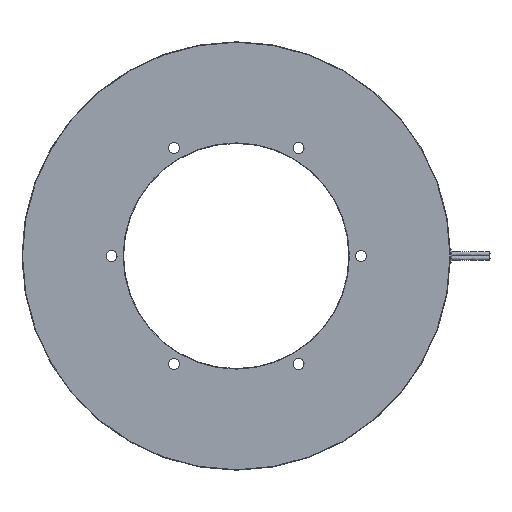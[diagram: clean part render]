
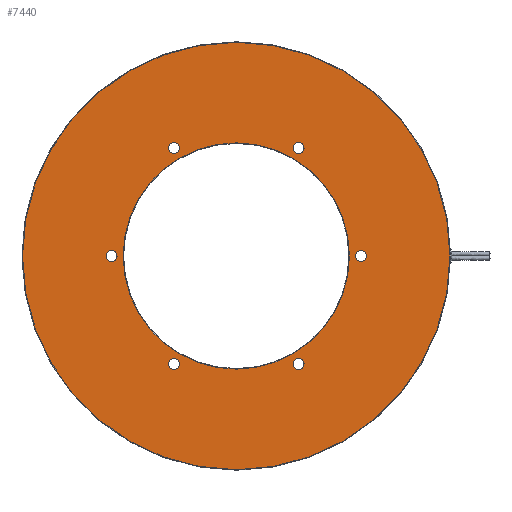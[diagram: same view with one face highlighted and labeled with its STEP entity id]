
A CAD part, left-side view. The second image highlights one B-rep face of the part: STEP entity #7440.
In plain terms, the highlighted planar face has unit normal (-1, 0, 0).
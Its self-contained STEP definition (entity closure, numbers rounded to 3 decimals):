
#77=FACE_BOUND('',#846,.T.);
#78=FACE_BOUND('',#847,.T.);
#79=FACE_BOUND('',#848,.T.);
#80=FACE_BOUND('',#849,.T.);
#81=FACE_BOUND('',#850,.T.);
#82=FACE_BOUND('',#851,.T.);
#83=FACE_BOUND('',#852,.T.);
#211=PLANE('',#8265);
#437=FACE_OUTER_BOUND('',#845,.T.);
#845=EDGE_LOOP('',(#5508,#5509,#5510));
#846=EDGE_LOOP('',(#5511,#5512));
#847=EDGE_LOOP('',(#5513,#5514));
#848=EDGE_LOOP('',(#5515,#5516));
#849=EDGE_LOOP('',(#5517,#5518));
#850=EDGE_LOOP('',(#5519,#5520));
#851=EDGE_LOOP('',(#5521,#5522));
#852=EDGE_LOOP('',(#5523));
#1140=CIRCLE('',#7659,204.);
#1141=CIRCLE('',#7660,204.);
#1569=CIRCLE('',#8266,204.);
#1570=CIRCLE('',#8267,5.25);
#1571=CIRCLE('',#8268,5.25);
#1572=CIRCLE('',#8269,5.25);
#1573=CIRCLE('',#8270,5.25);
#1574=CIRCLE('',#8271,5.25);
#1575=CIRCLE('',#8272,5.25);
#1576=CIRCLE('',#8273,5.25);
#1577=CIRCLE('',#8274,5.25);
#1578=CIRCLE('',#8275,5.25);
#1579=CIRCLE('',#8276,5.25);
#1580=CIRCLE('',#8277,5.25);
#1581=CIRCLE('',#8278,5.25);
#1582=CIRCLE('',#8279,108.);
#2551=VERTEX_POINT('',#11573);
#2552=VERTEX_POINT('',#11575);
#2553=VERTEX_POINT('',#11577);
#2915=VERTEX_POINT('',#12836);
#2916=VERTEX_POINT('',#12837);
#2917=VERTEX_POINT('',#12840);
#2918=VERTEX_POINT('',#12841);
#2919=VERTEX_POINT('',#12844);
#2920=VERTEX_POINT('',#12845);
#2921=VERTEX_POINT('',#12848);
#2922=VERTEX_POINT('',#12849);
#2923=VERTEX_POINT('',#12852);
#2924=VERTEX_POINT('',#12853);
#2925=VERTEX_POINT('',#12856);
#2926=VERTEX_POINT('',#12857);
#2927=VERTEX_POINT('',#12860);
#3312=EDGE_CURVE('',#2552,#2551,#1140,.T.);
#3313=EDGE_CURVE('',#2553,#2552,#1141,.T.);
#3887=EDGE_CURVE('',#2551,#2553,#1569,.T.);
#3888=EDGE_CURVE('',#2915,#2916,#1570,.T.);
#3889=EDGE_CURVE('',#2916,#2915,#1571,.T.);
#3890=EDGE_CURVE('',#2917,#2918,#1572,.T.);
#3891=EDGE_CURVE('',#2918,#2917,#1573,.T.);
#3892=EDGE_CURVE('',#2919,#2920,#1574,.T.);
#3893=EDGE_CURVE('',#2920,#2919,#1575,.T.);
#3894=EDGE_CURVE('',#2921,#2922,#1576,.T.);
#3895=EDGE_CURVE('',#2922,#2921,#1577,.T.);
#3896=EDGE_CURVE('',#2923,#2924,#1578,.T.);
#3897=EDGE_CURVE('',#2924,#2923,#1579,.T.);
#3898=EDGE_CURVE('',#2925,#2926,#1580,.T.);
#3899=EDGE_CURVE('',#2926,#2925,#1581,.T.);
#3900=EDGE_CURVE('',#2927,#2927,#1582,.T.);
#5508=ORIENTED_EDGE('',*,*,#3312,.T.);
#5509=ORIENTED_EDGE('',*,*,#3887,.T.);
#5510=ORIENTED_EDGE('',*,*,#3313,.T.);
#5511=ORIENTED_EDGE('',*,*,#3888,.T.);
#5512=ORIENTED_EDGE('',*,*,#3889,.T.);
#5513=ORIENTED_EDGE('',*,*,#3890,.T.);
#5514=ORIENTED_EDGE('',*,*,#3891,.T.);
#5515=ORIENTED_EDGE('',*,*,#3892,.T.);
#5516=ORIENTED_EDGE('',*,*,#3893,.T.);
#5517=ORIENTED_EDGE('',*,*,#3894,.T.);
#5518=ORIENTED_EDGE('',*,*,#3895,.T.);
#5519=ORIENTED_EDGE('',*,*,#3896,.T.);
#5520=ORIENTED_EDGE('',*,*,#3897,.T.);
#5521=ORIENTED_EDGE('',*,*,#3898,.T.);
#5522=ORIENTED_EDGE('',*,*,#3899,.T.);
#5523=ORIENTED_EDGE('',*,*,#3900,.F.);
#7440=ADVANCED_FACE('',(#437,#77,#78,#79,#80,#81,#82,#83),#211,.T.);
#7659=AXIS2_PLACEMENT_3D('',#11576,#8874,#8875);
#7660=AXIS2_PLACEMENT_3D('',#11578,#8876,#8877);
#8265=AXIS2_PLACEMENT_3D('',#12834,#10226,#10227);
#8266=AXIS2_PLACEMENT_3D('',#12835,#10228,#10229);
#8267=AXIS2_PLACEMENT_3D('',#12838,#10230,#10231);
#8268=AXIS2_PLACEMENT_3D('',#12839,#10232,#10233);
#8269=AXIS2_PLACEMENT_3D('',#12842,#10234,#10235);
#8270=AXIS2_PLACEMENT_3D('',#12843,#10236,#10237);
#8271=AXIS2_PLACEMENT_3D('',#12846,#10238,#10239);
#8272=AXIS2_PLACEMENT_3D('',#12847,#10240,#10241);
#8273=AXIS2_PLACEMENT_3D('',#12850,#10242,#10243);
#8274=AXIS2_PLACEMENT_3D('',#12851,#10244,#10245);
#8275=AXIS2_PLACEMENT_3D('',#12854,#10246,#10247);
#8276=AXIS2_PLACEMENT_3D('',#12855,#10248,#10249);
#8277=AXIS2_PLACEMENT_3D('',#12858,#10250,#10251);
#8278=AXIS2_PLACEMENT_3D('',#12859,#10252,#10253);
#8279=AXIS2_PLACEMENT_3D('',#12861,#10254,#10255);
#8874=DIRECTION('center_axis',(-1.,0.,0.));
#8875=DIRECTION('ref_axis',(0.,0.,
1.));
#8876=DIRECTION('center_axis',(-1.,0.,0.));
#8877=DIRECTION('ref_axis',(0.,0.,
1.));
#10226=DIRECTION('center_axis',(-1.,0.,0.));
#10227=DIRECTION('ref_axis',(0.,-1.,0.));
#10228=DIRECTION('center_axis',(-1.,0.,0.));
#10229=DIRECTION('ref_axis',(0.,0.,
1.));
#10230=DIRECTION('center_axis',(1.,0.,0.));
#10231=DIRECTION('ref_axis',(0.,0.,
1.));
#10232=DIRECTION('center_axis',(1.,0.,0.));
#10233=DIRECTION('ref_axis',(0.,0.,
1.));
#10234=DIRECTION('center_axis',(1.,0.,0.));
#10235=DIRECTION('ref_axis',(0.,0.,
1.));
#10236=DIRECTION('center_axis',(1.,0.,0.));
#10237=DIRECTION('ref_axis',(0.,0.,
1.));
#10238=DIRECTION('center_axis',(1.,0.,0.));
#10239=DIRECTION('ref_axis',(0.,0.,
1.));
#10240=DIRECTION('center_axis',(1.,0.,0.));
#10241=DIRECTION('ref_axis',(0.,0.,
1.));
#10242=DIRECTION('center_axis',(1.,0.,0.));
#10243=DIRECTION('ref_axis',(0.,0.,
1.));
#10244=DIRECTION('center_axis',(1.,0.,0.));
#10245=DIRECTION('ref_axis',(0.,0.,
1.));
#10246=DIRECTION('center_axis',(1.,0.,0.));
#10247=DIRECTION('ref_axis',(0.,0.,
1.));
#10248=DIRECTION('center_axis',(1.,0.,0.));
#10249=DIRECTION('ref_axis',(0.,0.,
1.));
#10250=DIRECTION('center_axis',(1.,0.,0.));
#10251=DIRECTION('ref_axis',(0.,0.,
1.));
#10252=DIRECTION('center_axis',(1.,0.,0.));
#10253=DIRECTION('ref_axis',(0.,0.,
1.));
#10254=DIRECTION('center_axis',(-1.,0.,0.));
#10255=DIRECTION('ref_axis',(0.,0.,
-1.));
#11573=CARTESIAN_POINT('',(-25.65,0.,-204.));
#11575=CARTESIAN_POINT('',(-25.65,0.,204.));
#11576=CARTESIAN_POINT('Origin',(-25.65,0.,
0.));
#11577=CARTESIAN_POINT('',(-25.65,-204.,0.));
#11578=CARTESIAN_POINT('Origin',(-25.65,0.,
0.));
#12834=CARTESIAN_POINT('Origin',(-25.65,0.,155.75));
#12835=CARTESIAN_POINT('Origin',(-25.65,0.,
0.));
#12836=CARTESIAN_POINT('',(-25.65,59.5,-97.807));
#12837=CARTESIAN_POINT('',(-25.65,59.5,-108.307));
#12838=CARTESIAN_POINT('Origin',(-25.65,59.5,-103.057));
#12839=CARTESIAN_POINT('Origin',(-25.65,59.5,-103.057));
#12840=CARTESIAN_POINT('',(-25.65,59.5,108.307));
#12841=CARTESIAN_POINT('',(-25.65,59.5,97.807));
#12842=CARTESIAN_POINT('Origin',(-25.65,59.5,103.057));
#12843=CARTESIAN_POINT('Origin',(-25.65,59.5,103.057));
#12844=CARTESIAN_POINT('',(-25.65,-119.,5.25));
#12845=CARTESIAN_POINT('',(-25.65,-119.,-5.25));
#12846=CARTESIAN_POINT('Origin',(-25.65,-119.,0.));
#12847=CARTESIAN_POINT('Origin',(-25.65,-119.,0.));
#12848=CARTESIAN_POINT('',(-25.65,-59.5,108.307));
#12849=CARTESIAN_POINT('',(-25.65,-59.5,97.807));
#12850=CARTESIAN_POINT('Origin',(-25.65,-59.5,103.057));
#12851=CARTESIAN_POINT('Origin',(-25.65,-59.5,103.057));
#12852=CARTESIAN_POINT('',(-25.65,119.,5.25));
#12853=CARTESIAN_POINT('',(-25.65,119.,-5.25));
#12854=CARTESIAN_POINT('Origin',(-25.65,119.,0.));
#12855=CARTESIAN_POINT('Origin',(-25.65,119.,0.));
#12856=CARTESIAN_POINT('',(-25.65,-59.5,-97.807));
#12857=CARTESIAN_POINT('',(-25.65,-59.5,-108.307));
#12858=CARTESIAN_POINT('Origin',(-25.65,-59.5,-103.057));
#12859=CARTESIAN_POINT('Origin',(-25.65,-59.5,-103.057));
#12860=CARTESIAN_POINT('',(-25.65,0.,108.));
#12861=CARTESIAN_POINT('Origin',(-25.65,0.,0.));
